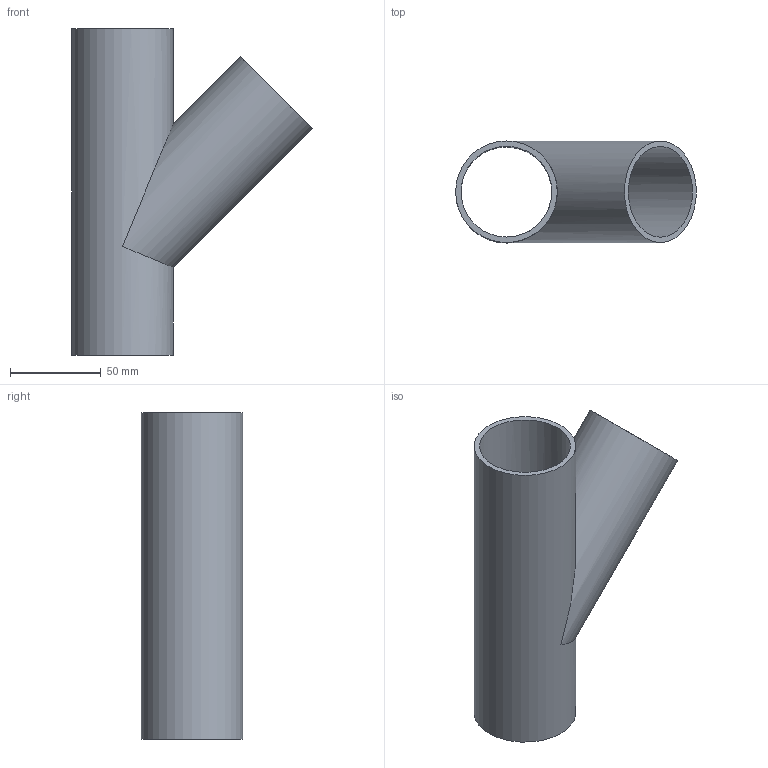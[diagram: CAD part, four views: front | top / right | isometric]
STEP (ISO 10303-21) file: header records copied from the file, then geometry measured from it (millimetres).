
FILE_DESCRIPTION(/* description */ (''),/* implementation_level */ '2;1');
FILE_NAME(/* name */ 'C:\Planerdaten\Export PLA\PRO_101557\stp\363115.stp',/* time_stamp */ '2021-09-30T15:04:00+02:00',/* author */ ('JANAN'),/* organization */ (''),/* preprocessor_version */ 'ST-DEVELOPER v16.13',/* originating_system */ 'Autodesk Inventor 2018',/* authorisation */ '');
FILE_SCHEMA (('AUTOMOTIVE_DESIGN { 1 0 10303 214 3 1 1 }'));
Length unit declared in the file: millimetre
Products named in the file (1): tmp76BB.tmp
Bounding box: 132.65 x 56 x 180 mm (x, y, z)
Volume: 125993.4 mm3; surface area: 85460.2 mm2
Topology: 1 solids, 1 shells, 7 faces, 19 edges, 14 vertices
Faces by surface type: cylinder 4, plane 3
Full cylindrical faces by diameter (mm): 50 x2, 56 x2
Entity records: 228 total; most frequent: DIRECTION 36, CARTESIAN_POINT 28, ORIENTED_EDGE 20, AXIS2_PLACEMENT_3D 18, EDGE_LOOP 16, VERTEX_POINT 10, EDGE_CURVE 10, FACE_BOUND 9
